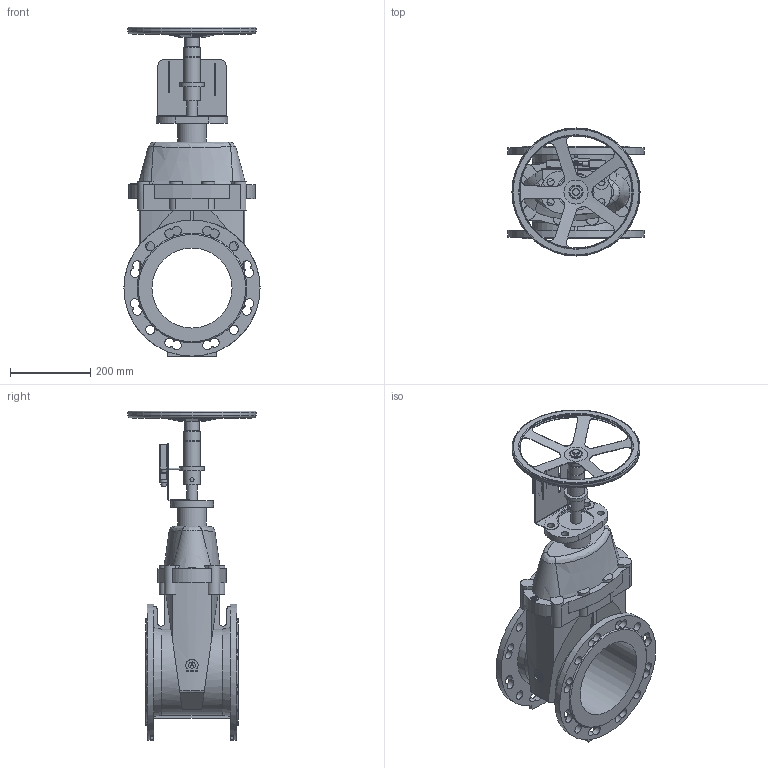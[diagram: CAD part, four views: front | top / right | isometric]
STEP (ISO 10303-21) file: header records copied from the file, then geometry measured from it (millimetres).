
FILE_DESCRIPTION(('STEP AP203'), '1');
FILE_NAME('Çàäâèæêà 47GV.M DN200 ñ ìàõîâèêîì è ÓÊÏ', '', ('UNSPECIFIED'), ('UNSPECIFIED'), 'ASCON STEP Converter 1.6', 'ASCON Math Kernel', '');
FILE_SCHEMA(('CONFIG_CONTROL_DESIGN'));
Length unit declared in the file: millimetre
Bounding box: 340 x 320 x 824 mm (x, y, z)
Volume: 12815095.3 mm3; surface area: 1073010 mm2
Topology: 4 solids, 4 shells, 480 faces, 1327 edges, 851 vertices
Faces by surface type: plane 227, cylinder 212, cone 19, bspline 10, torus 8, sphere 4
Full cylindrical faces by diameter (mm): 4 x4, 4.917 x1, 6 x1, 10 x2, 12 x4, 14 x2, 18 x4, 23 x8, 26 x1, 30 x1, 35 x1, 40 x1, 42 x2, 60 x1, 72 x1, 90 x1, 200 x1, 283 x1, 317 x1, 320 x1, 340 x2
Entity records: 27926 total; most frequent: CARTESIAN_POINT 11916, ORIENTED_EDGE 2520, DIRECTION 2508, EDGE_CURVE 1260, AXIS2_PLACEMENT_3D 989, VERTEX_POINT 851, EDGE_LOOP 627, LINE 530
